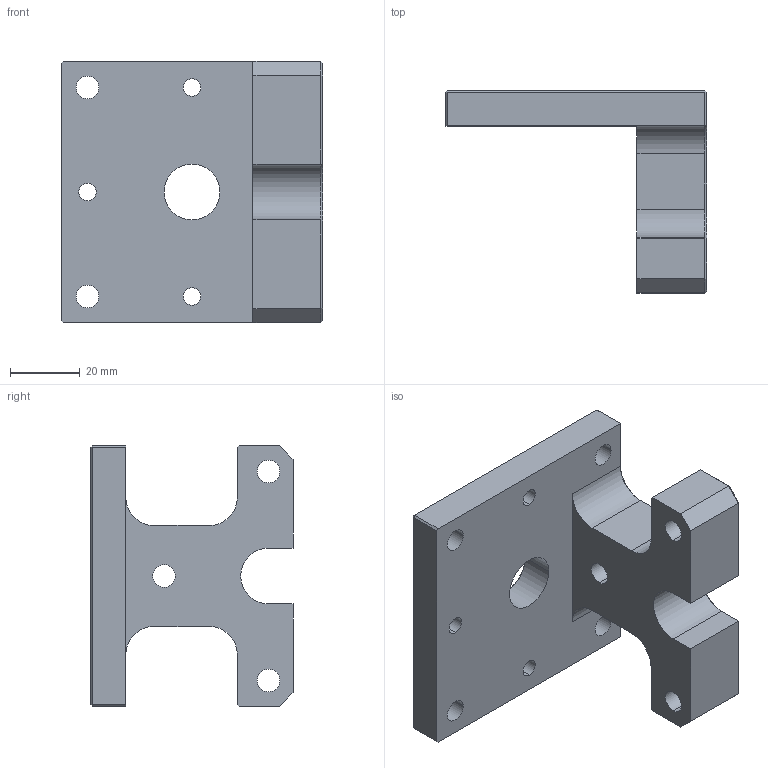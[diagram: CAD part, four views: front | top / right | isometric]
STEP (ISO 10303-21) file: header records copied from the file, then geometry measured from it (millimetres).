
FILE_DESCRIPTION (( 'STEP AP203' ), '1' );
FILE_NAME ('SW12-001-Schwenkwinkel.STEP', '2013-08-19T12:58:44', ( 'MM01' ), ( '' ), 'SwSTEP 2.0', 'SolidWorks 2012', '' );
FILE_SCHEMA (( 'CONFIG_CONTROL_DESIGN' ));
Length unit declared in the file: millimetre
Products named in the file (1): SW12-001-Schwenkwinkel
Bounding box: 75 x 58 x 75 mm (x, y, z)
Volume: 87861 mm3; surface area: 24220.2 mm2
Topology: 1 solids, 1 shells, 110 faces, 271 edges, 165 vertices
Faces by surface type: plane 52, cylinder 35, cone 23
Entity records: 3331 total; most frequent: DIRECTION 592, CARTESIAN_POINT 545, ORIENTED_EDGE 538, EDGE_CURVE 269, AXIS2_PLACEMENT_3D 212, VECTOR 168, LINE 168, VERTEX_POINT 165
